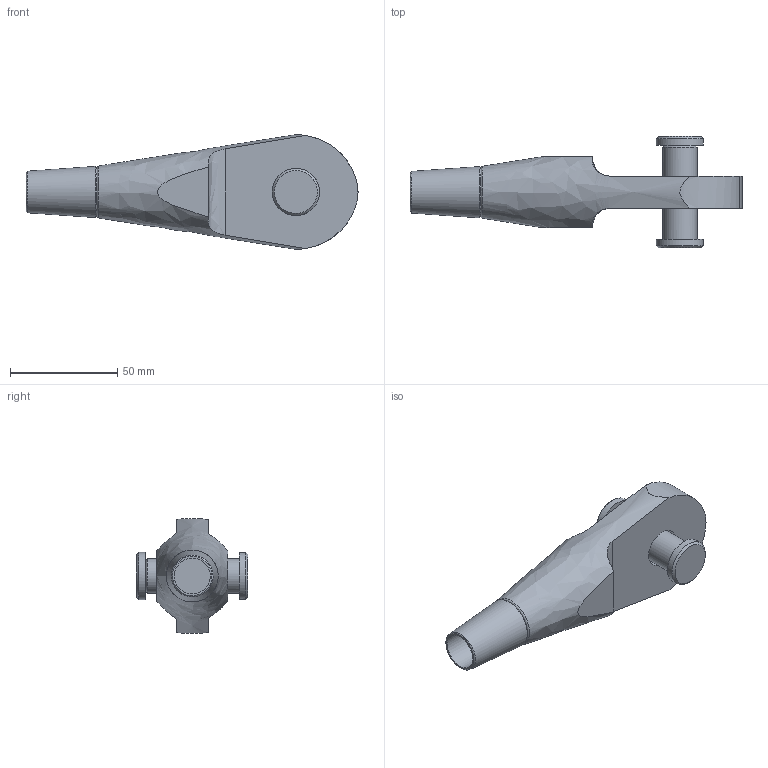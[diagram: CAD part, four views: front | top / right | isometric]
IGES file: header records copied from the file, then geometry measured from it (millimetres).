
Global section: file name: 520-016-OES; native system: Autodesk Inventor 2016; preprocessor: unknown; author: Administrator; date: 20200626.101001; units: centimetre
Bounding box: 155 x 52.21 x 53.46 mm (x, y, z)
Volume: 104181.6 mm3; surface area: 22853.8 mm2
Topology: 2 solids, 3 shells, 49 faces, 116 edges, 79 vertices
Faces by surface type: bspline 49
